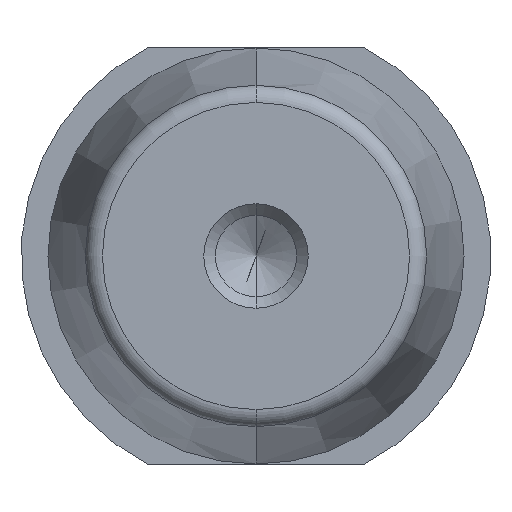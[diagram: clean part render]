
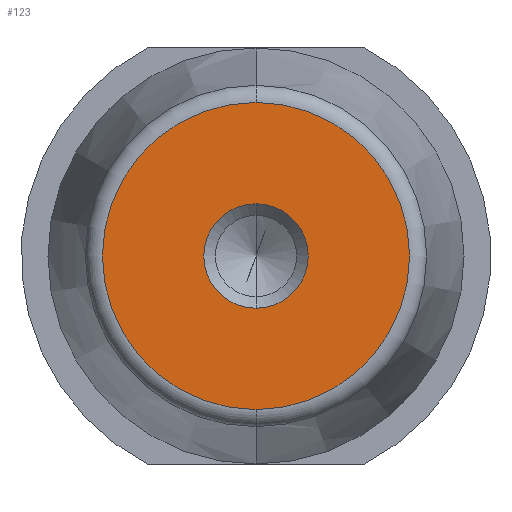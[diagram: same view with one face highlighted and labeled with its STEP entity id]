
A CAD part, front view. The second image highlights one B-rep face of the part: STEP entity #123.
In plain terms, the highlighted planar face has unit normal (0, -1, 0).
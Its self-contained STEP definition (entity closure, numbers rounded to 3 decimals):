
#12 = CARTESIAN_POINT ( 'NONE',  ( 0., -25.5, 13.241 ) ) ;
#17 = CARTESIAN_POINT ( 'NONE',  ( 0., -25.5, 0. ) ) ;
#22 = AXIS2_PLACEMENT_3D ( 'NONE', #218, #219, #554 ) ;
#69 = EDGE_CURVE ( 'NONE', #280, #246, #468, .T. ) ;
#76 = CARTESIAN_POINT ( 'NONE',  ( 0., -25.5, 0. ) ) ;
#85 = AXIS2_PLACEMENT_3D ( 'NONE', #90, #347, #707 ) ;
#90 = CARTESIAN_POINT ( 'NONE',  ( 0., -25.5, 0. ) ) ;
#98 = CARTESIAN_POINT ( 'NONE',  ( 0., -25.5, -13.241 ) ) ;
#123 = ADVANCED_FACE ( 'NONE', ( #528, #667 ), #658, .F. ) ;
#146 = DIRECTION ( 'NONE',  ( 0., -1., 0. ) ) ;
#205 = DIRECTION ( 'NONE',  ( 0., 0., -1. ) ) ;
#206 = EDGE_CURVE ( 'NONE', #612, #269, #452, .T. ) ;
#208 = CIRCLE ( 'NONE', #533, 13.241 ) ;
#218 = CARTESIAN_POINT ( 'NONE',  ( 0., -25.5, 0. ) ) ;
#219 = DIRECTION ( 'NONE',  ( 0., -1., 0. ) ) ;
#232 = CARTESIAN_POINT ( 'NONE',  ( 0., -25.5, -4.5 ) ) ;
#234 = CARTESIAN_POINT ( 'NONE',  ( 0., -25.5, 4.5 ) ) ;
#246 = VERTEX_POINT ( 'NONE', #232 ) ;
#256 = ORIENTED_EDGE ( 'NONE', *, *, #206, .T. ) ;
#269 = VERTEX_POINT ( 'NONE', #98 ) ;
#274 = ORIENTED_EDGE ( 'NONE', *, *, #69, .F. ) ;
#277 = EDGE_LOOP ( 'NONE', ( #807, #274 ) ) ;
#280 = VERTEX_POINT ( 'NONE', #234 ) ;
#315 = CARTESIAN_POINT ( 'NONE',  ( 0., -25.5, 0. ) ) ;
#330 = ORIENTED_EDGE ( 'NONE', *, *, #489, .T. ) ;
#347 = DIRECTION ( 'NONE',  ( 0., 1., 0. ) ) ;
#381 = DIRECTION ( 'NONE',  ( 0., -1., 0. ) ) ;
#452 = CIRCLE ( 'NONE', #22, 13.241 ) ;
#468 = CIRCLE ( 'NONE', #501, 4.5 ) ;
#489 = EDGE_CURVE ( 'NONE', #269, #612, #208, .T. ) ;
#501 = AXIS2_PLACEMENT_3D ( 'NONE', #17, #146, #585 ) ;
#502 = AXIS2_PLACEMENT_3D ( 'NONE', #76, #590, #205 ) ;
#528 = FACE_OUTER_BOUND ( 'NONE', #666, .T. ) ;
#533 = AXIS2_PLACEMENT_3D ( 'NONE', #315, #381, #621 ) ;
#554 = DIRECTION ( 'NONE',  ( 0., 0., 1. ) ) ;
#580 = CIRCLE ( 'NONE', #502, 4.5 ) ;
#585 = DIRECTION ( 'NONE',  ( 0., 0., -1. ) ) ;
#590 = DIRECTION ( 'NONE',  ( 0., -1., 0. ) ) ;
#612 = VERTEX_POINT ( 'NONE', #12 ) ;
#621 = DIRECTION ( 'NONE',  ( 0., 0., 1. ) ) ;
#658 = PLANE ( 'NONE',  #85 ) ;
#666 = EDGE_LOOP ( 'NONE', ( #256, #330 ) ) ;
#667 = FACE_BOUND ( 'NONE', #277, .T. ) ;
#707 = DIRECTION ( 'NONE',  ( 1., 0., 0. ) ) ;
#715 = EDGE_CURVE ( 'NONE', #246, #280, #580, .T. ) ;
#807 = ORIENTED_EDGE ( 'NONE', *, *, #715, .F. ) ;
